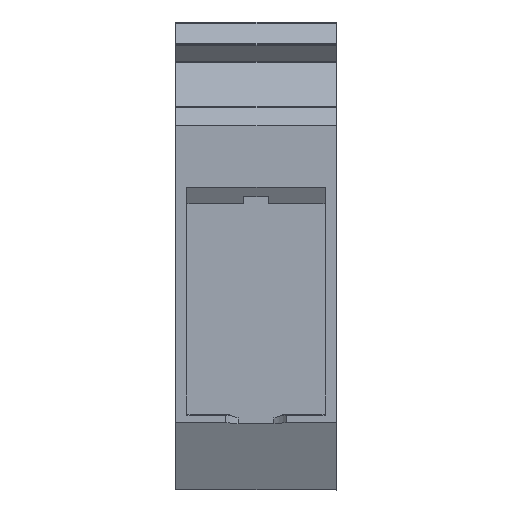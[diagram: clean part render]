
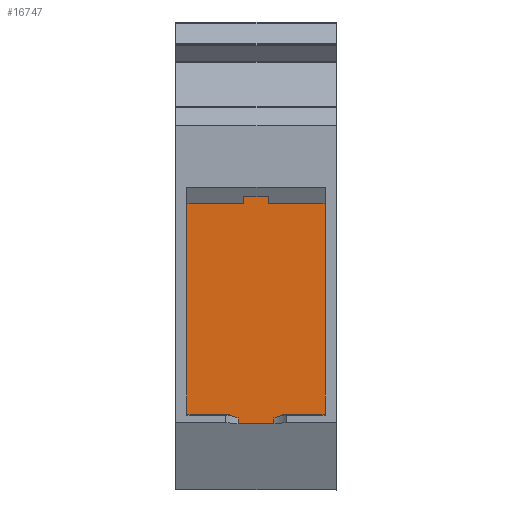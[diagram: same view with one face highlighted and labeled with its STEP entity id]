
A CAD part, left-side view. The second image highlights one B-rep face of the part: STEP entity #16747.
In plain terms, the highlighted planar face has unit normal (-1, 0, 0).
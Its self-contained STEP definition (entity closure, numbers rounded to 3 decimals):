
#443 = LINE ( 'NONE', #20234, #86197 ) ;
#973 = VECTOR ( 'NONE', #51704, 1000. ) ;
#2695 = VECTOR ( 'NONE', #46980, 1000. ) ;
#4870 = AXIS2_PLACEMENT_3D ( 'NONE', #8657, #62080, #15676 ) ;
#6910 = ORIENTED_EDGE ( 'NONE', *, *, #97838, .T. ) ;
#7551 = CARTESIAN_POINT ( 'NONE',  ( 1.88, 16.554, -41.046 ) ) ;
#8657 = CARTESIAN_POINT ( 'NONE',  ( 1.88, 8.404, -33.691 ) ) ;
#9262 = DIRECTION ( 'NONE',  ( 0., 0., 1. ) ) ;
#9984 = VECTOR ( 'NONE', #49518, 1000. ) ;
#11513 = CARTESIAN_POINT ( 'NONE',  ( 1.88, 15.404, -33.992 ) ) ;
#12102 = DIRECTION ( 'NONE',  ( -1., 0., 0. ) ) ;
#14181 = LINE ( 'NONE', #103617, #56131 ) ;
#14396 = EDGE_CURVE ( 'NONE', #112230, #30600, #443, .T. ) ;
#15676 = DIRECTION ( 'NONE',  ( 0., 0., 1. ) ) ;
#15897 = EDGE_CURVE ( 'NONE', #97682, #30600, #20831, .T. ) ;
#16297 = VECTOR ( 'NONE', #31631, 1000. ) ;
#16747 = ADVANCED_FACE ( 'NONE', ( #105131 ), #62673, .T. ) ;
#16768 = EDGE_LOOP ( 'NONE', ( #78616, #100561, #111234, #6910, #26211, #31541, #57724, #72679, #54231, #80689, #82995, #36354, #85730, #22087 ) ) ;
#20234 = CARTESIAN_POINT ( 'NONE',  ( 1.88, 5.224, -40.147 ) ) ;
#20831 = LINE ( 'NONE', #11513, #2695 ) ;
#21412 = VERTEX_POINT ( 'NONE', #88972 ) ;
#22087 = ORIENTED_EDGE ( 'NONE', *, *, #102358, .F. ) ;
#23127 = AXIS2_PLACEMENT_3D ( 'NONE', #40581, #12102, #56814 ) ;
#23568 = EDGE_CURVE ( 'NONE', #81581, #97682, #60955, .T. ) ;
#26211 = ORIENTED_EDGE ( 'NONE', *, *, #23568, .T. ) ;
#30600 = VERTEX_POINT ( 'NONE', #61428 ) ;
#31456 = CARTESIAN_POINT ( 'NONE',  ( 1.88, 6.584, -41.046 ) ) ;
#31541 = ORIENTED_EDGE ( 'NONE', *, *, #15897, .T. ) ;
#31631 = DIRECTION ( 'NONE',  ( 0., 1., 0. ) ) ;
#31867 = CARTESIAN_POINT ( 'NONE',  ( 1.88, 7.154, -18.717 ) ) ;
#32055 = VECTOR ( 'NONE', #58394, 1000. ) ;
#33656 = CARTESIAN_POINT ( 'NONE',  ( 1.88, 9.654, -17.992 ) ) ;
#34839 = DIRECTION ( 'NONE',  ( 0., 1., 0. ) ) ;
#34858 = DIRECTION ( 'NONE',  ( -1., 0., 0. ) ) ;
#35079 = LINE ( 'NONE', #97155, #62678 ) ;
#36354 = ORIENTED_EDGE ( 'NONE', *, *, #63022, .T. ) ;
#39795 = CIRCLE ( 'NONE', #23127, 7. ) ;
#40581 = CARTESIAN_POINT ( 'NONE',  ( 1.88, 8.404, -33.691 ) ) ;
#43291 = CARTESIAN_POINT ( 'NONE',  ( 1.88, 6.584, -41.046 ) ) ;
#43581 = LINE ( 'NONE', #78967, #45720 ) ;
#43632 = VECTOR ( 'NONE', #34839, 1000. ) ;
#45720 = VECTOR ( 'NONE', #105717, 1000. ) ;
#46341 = CARTESIAN_POINT ( 'NONE',  ( 1.88, 10.224, -40.45 ) ) ;
#46980 = DIRECTION ( 'NONE',  ( 0., 0., -1. ) ) ;
#47807 = LINE ( 'NONE', #73350, #9984 ) ;
#49242 = AXIS2_PLACEMENT_3D ( 'NONE', #98094, #34858, #9262 ) ;
#49518 = DIRECTION ( 'NONE',  ( 0., 0., -1. ) ) ;
#50291 = CARTESIAN_POINT ( 'NONE',  ( 1.88, 6.584, -40.847 ) ) ;
#51462 = VERTEX_POINT ( 'NONE', #90146 ) ;
#51704 = DIRECTION ( 'NONE',  ( 0., 1., 0. ) ) ;
#51949 = VERTEX_POINT ( 'NONE', #33656 ) ;
#53503 = VERTEX_POINT ( 'NONE', #31867 ) ;
#54231 = ORIENTED_EDGE ( 'NONE', *, *, #63025, .T. ) ;
#56131 = VECTOR ( 'NONE', #111762, 1000. ) ;
#56814 = DIRECTION ( 'NONE',  ( 0., 0., 1. ) ) ;
#57174 = CARTESIAN_POINT ( 'NONE',  ( 1.88, 5.224, -40.147 ) ) ;
#57724 = ORIENTED_EDGE ( 'NONE', *, *, #14396, .F. ) ;
#58394 = DIRECTION ( 'NONE',  ( 0., 0., -1. ) ) ;
#58980 = CARTESIAN_POINT ( 'NONE',  ( 1.88, 6.584, -40.649 ) ) ;
#59808 = LINE ( 'NONE', #7551, #973 ) ;
#60955 = LINE ( 'NONE', #68531, #43632 ) ;
#61428 = CARTESIAN_POINT ( 'NONE',  ( 1.88, 15.404, -40.147 ) ) ;
#62080 = DIRECTION ( 'NONE',  ( -1., 0., 0. ) ) ;
#62673 = PLANE ( 'NONE',  #49242 ) ;
#62678 = VECTOR ( 'NONE', #113499, 1000. ) ;
#63022 = EDGE_CURVE ( 'NONE', #21412, #51462, #39795, .T. ) ;
#63025 = EDGE_CURVE ( 'NONE', #73024, #107497, #82698, .T. ) ;
#64362 = CARTESIAN_POINT ( 'NONE',  ( 1.88, 9.654, -18.717 ) ) ;
#66088 = CARTESIAN_POINT ( 'NONE',  ( 1.88, 10.224, -40.649 ) ) ;
#66460 = LINE ( 'NONE', #57174, #16297 ) ;
#66837 = EDGE_CURVE ( 'NONE', #92008, #51462, #66460, .T. ) ;
#68270 = CARTESIAN_POINT ( 'NONE',  ( 1.88, 9.654, -33.992 ) ) ;
#68531 = CARTESIAN_POINT ( 'NONE',  ( 1.88, 8.879, -18.717 ) ) ;
#69143 = CARTESIAN_POINT ( 'NONE',  ( 1.88, 7.154, -17.992 ) ) ;
#69396 = CARTESIAN_POINT ( 'NONE',  ( 1.88, 6.584, -40.45 ) ) ;
#72679 = ORIENTED_EDGE ( 'NONE', *, *, #90287, .T. ) ;
#72952 = CARTESIAN_POINT ( 'NONE',  ( 1.88, 15.404, -18.717 ) ) ;
#73024 = VERTEX_POINT ( 'NONE', #46341 ) ;
#73350 = CARTESIAN_POINT ( 'NONE',  ( 1.88, 1.404, -33.992 ) ) ;
#74241 = CARTESIAN_POINT ( 'NONE',  ( 1.88, 10.224, -40.847 ) ) ;
#74299 = VERTEX_POINT ( 'NONE', #93448 ) ;
#75767 = EDGE_CURVE ( 'NONE', #87179, #53503, #14181, .T. ) ;
#77023 = CARTESIAN_POINT ( 'NONE',  ( 1.88, 10.224, -41.046 ) ) ;
#77082 = CARTESIAN_POINT ( 'NONE',  ( 1.88, 11.109, -40.147 ) ) ;
#78616 = ORIENTED_EDGE ( 'NONE', *, *, #104819, .T. ) ;
#78967 = CARTESIAN_POINT ( 'NONE',  ( 1.88, 8.879, -18.717 ) ) ;
#80058 = DIRECTION ( 'NONE',  ( 0., 1., 0. ) ) ;
#80689 = ORIENTED_EDGE ( 'NONE', *, *, #103917, .F. ) ;
#81581 = VERTEX_POINT ( 'NONE', #64362 ) ;
#82698 = B_SPLINE_CURVE_WITH_KNOTS ( 'NONE', 3,
 ( #110279, #66088, #74241, #92784 ),
 .UNSPECIFIED., .F., .F.,
 ( 4, 4 ),
 ( 0., 1. ),
 .UNSPECIFIED. ) ;
#82995 = ORIENTED_EDGE ( 'NONE', *, *, #91888, .T. ) ;
#83733 = CARTESIAN_POINT ( 'NONE',  ( 1.88, 1.404, -40.147 ) ) ;
#84518 = LINE ( 'NONE', #68270, #32055 ) ;
#85730 = ORIENTED_EDGE ( 'NONE', *, *, #66837, .F. ) ;
#86197 = VECTOR ( 'NONE', #80058, 1000. ) ;
#87032 = VERTEX_POINT ( 'NONE', #31456 ) ;
#87179 = VERTEX_POINT ( 'NONE', #69143 ) ;
#88972 = CARTESIAN_POINT ( 'NONE',  ( 1.88, 6.584, -40.45 ) ) ;
#90146 = CARTESIAN_POINT ( 'NONE',  ( 1.88, 5.699, -40.147 ) ) ;
#90287 = EDGE_CURVE ( 'NONE', #112230, #73024, #103231, .T. ) ;
#91888 = EDGE_CURVE ( 'NONE', #87032, #21412, #97917, .T. ) ;
#92008 = VERTEX_POINT ( 'NONE', #83733 ) ;
#92784 = CARTESIAN_POINT ( 'NONE',  ( 1.88, 10.224, -41.046 ) ) ;
#93448 = CARTESIAN_POINT ( 'NONE',  ( 1.88, 1.404, -18.717 ) ) ;
#97155 = CARTESIAN_POINT ( 'NONE',  ( 1.88, 8.879, -17.992 ) ) ;
#97682 = VERTEX_POINT ( 'NONE', #72952 ) ;
#97838 = EDGE_CURVE ( 'NONE', #51949, #81581, #84518, .T. ) ;
#97917 = B_SPLINE_CURVE_WITH_KNOTS ( 'NONE', 3,
 ( #43291, #50291, #58980, #69396 ),
 .UNSPECIFIED., .F., .F.,
 ( 4, 4 ),
 ( 0., 1. ),
 .UNSPECIFIED. ) ;
#98094 = CARTESIAN_POINT ( 'NONE',  ( 1.88, 8.879, -33.992 ) ) ;
#100561 = ORIENTED_EDGE ( 'NONE', *, *, #75767, .F. ) ;
#102358 = EDGE_CURVE ( 'NONE', #74299, #92008, #47807, .T. ) ;
#103231 = CIRCLE ( 'NONE', #4870, 7. ) ;
#103617 = CARTESIAN_POINT ( 'NONE',  ( 1.88, 7.154, -33.992 ) ) ;
#103917 = EDGE_CURVE ( 'NONE', #87032, #107497, #59808, .T. ) ;
#104819 = EDGE_CURVE ( 'NONE', #74299, #53503, #43581, .T. ) ;
#105131 = FACE_OUTER_BOUND ( 'NONE', #16768, .T. ) ;
#105717 = DIRECTION ( 'NONE',  ( 0., 1., 0. ) ) ;
#107497 = VERTEX_POINT ( 'NONE', #77023 ) ;
#110279 = CARTESIAN_POINT ( 'NONE',  ( 1.88, 10.224, -40.45 ) ) ;
#111234 = ORIENTED_EDGE ( 'NONE', *, *, #114851, .T. ) ;
#111762 = DIRECTION ( 'NONE',  ( 0., 0., -1. ) ) ;
#112230 = VERTEX_POINT ( 'NONE', #77082 ) ;
#113499 = DIRECTION ( 'NONE',  ( 0., 1., 0. ) ) ;
#114851 = EDGE_CURVE ( 'NONE', #87179, #51949, #35079, .T. ) ;
